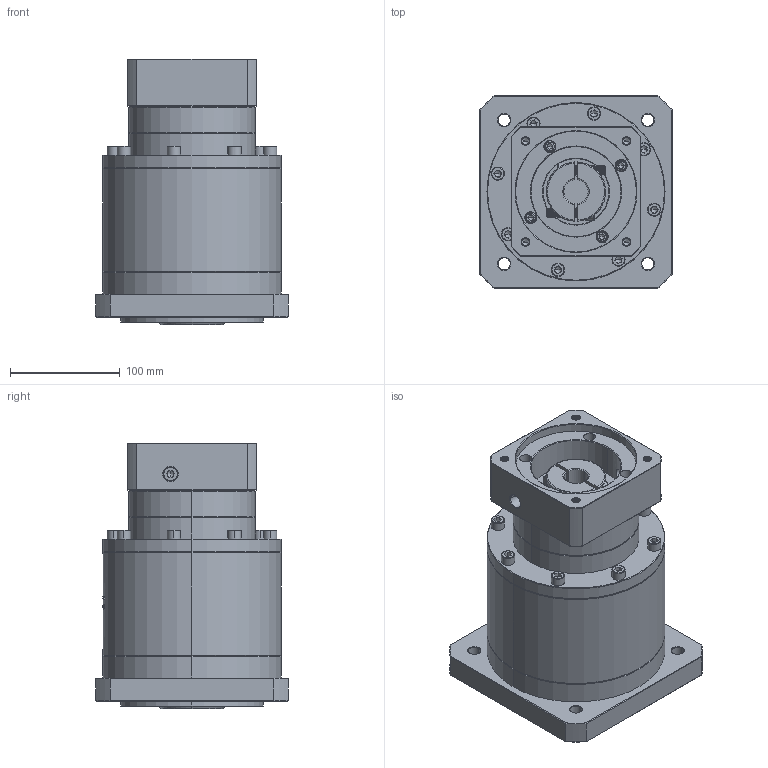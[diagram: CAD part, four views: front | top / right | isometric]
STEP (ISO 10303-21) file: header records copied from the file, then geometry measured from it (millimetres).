
FILE_DESCRIPTION (( 'STEP AP214' ), '1' );
FILE_NAME ('ZF160-K35-L3-22-110-130-M8.step', '2023-03-22T04:00:04', ( '' ), ( '' ), 'SwSTEP 2.0', 'SolidWorks 2016', '' );
FILE_SCHEMA (( 'AUTOMOTIVE_DESIGN' ));
Length unit declared in the file: millimetre
Products named in the file (1): ZF160-K35-L3-22-110-130-M8
Bounding box: 175 x 175 x 241.7 mm (x, y, z)
Volume: 4033490.6 mm3; surface area: 275464.9 mm2
Topology: 6 solids, 6 shells, 1814 faces, 4592 edges, 2903 vertices
Faces by surface type: plane 739, cylinder 447, cone 367, bspline 225, torus 36
Entity records: 93216 total; most frequent: CARTESIAN_POINT 31721, ORIENTED_EDGE 9080, DIRECTION 8016, EDGE_CURVE 4540, VERTEX_POINT 2903, AXIS2_PLACEMENT_3D 2781, VECTOR 2454, LINE 2454
